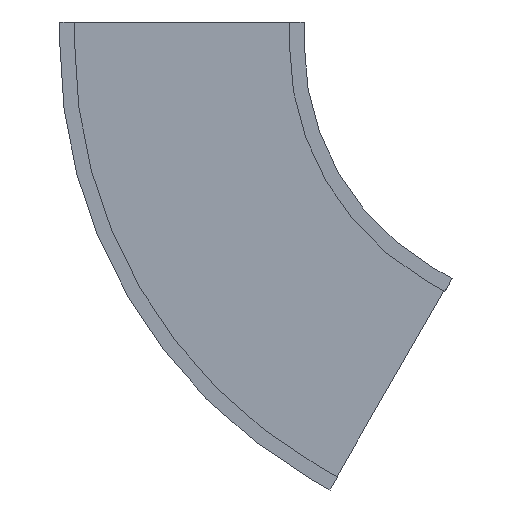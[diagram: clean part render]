
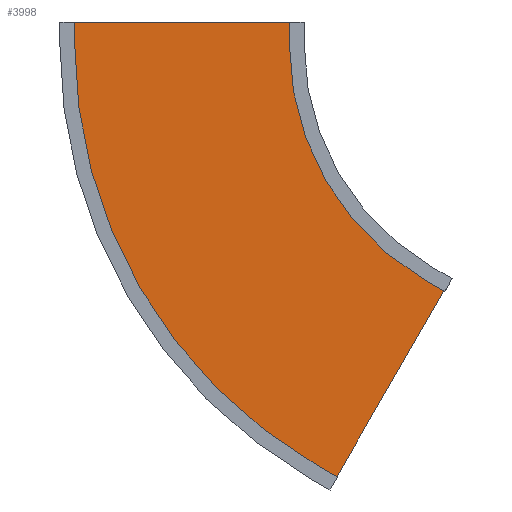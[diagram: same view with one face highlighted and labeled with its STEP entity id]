
A CAD part, front view. The second image highlights one B-rep face of the part: STEP entity #3998.
In plain terms, the highlighted planar face has unit normal (0, -1, 0).
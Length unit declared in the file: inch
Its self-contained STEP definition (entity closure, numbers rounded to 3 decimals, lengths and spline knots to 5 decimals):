
#3843=DIRECTION('',(0.,0.,1.));
#3844=VECTOR('',#3843,29.875);
#3845=CARTESIAN_POINT('',(-2.875,0.,-14.9375));
#3846=LINE('',#3845,#3844);
#3847=DIRECTION('',(1.,0.,0.));
#3848=VECTOR('',#3847,2.875);
#3849=CARTESIAN_POINT('',(-2.875,0.,14.9375));
#3850=LINE('',#3849,#3848);
#3851=CARTESIAN_POINT('',(0.,0.,51.11));
#3852=DIRECTION('',(0.,-1.,0.));
#3853=DIRECTION('',(0.,0.,-1.));
#3854=AXIS2_PLACEMENT_3D('',#3851,#3852,#3853);
#3856=DIRECTION('',(0.5,0.,0.866));
#3857=VECTOR('',#3856,2.875);
#3858=CARTESIAN_POINT('',(31.3263,0.,33.02375));
#3859=LINE('',#3858,#3857);
#3860=DIRECTION('',(0.866,0.,-0.5));
#3861=VECTOR('',#3860,29.875);
#3862=CARTESIAN_POINT('',(32.7638,0.,35.51357));
#3863=LINE('',#3862,#3861);
#3864=DIRECTION('',(-0.5,0.,-0.866));
#3865=VECTOR('',#3864,2.875);
#3866=CARTESIAN_POINT('',(58.63631,0.,20.57607));
#3867=LINE('',#3866,#3865);
#3868=CARTESIAN_POINT('',(0.,0.,51.11));
#3869=DIRECTION('',(0.,1.,0.));
#3870=DIRECTION('',(0.866,0.,-0.5));
#3871=AXIS2_PLACEMENT_3D('',#3868,#3869,#3870);
#3873=DIRECTION('',(-1.,0.,0.));
#3874=VECTOR('',#3873,2.875);
#3875=CARTESIAN_POINT('',(0.,0.,-14.9375));
#3876=LINE('',#3875,#3874);
#3943=CARTESIAN_POINT('',(-2.875,0.,-14.9375));
#3944=CARTESIAN_POINT('',(-2.875,0.,14.9375));
#3945=VERTEX_POINT('',#3943);
#3946=VERTEX_POINT('',#3944);
#3947=CARTESIAN_POINT('',(0.,0.,14.9375));
#3948=VERTEX_POINT('',#3947);
#3949=CARTESIAN_POINT('',(31.3263,0.,33.02375));
#3950=VERTEX_POINT('',#3949);
#3951=CARTESIAN_POINT('',(32.7638,0.,35.51357));
#3952=VERTEX_POINT('',#3951);
#3953=CARTESIAN_POINT('',(58.63631,0.,20.57607));
#3954=VERTEX_POINT('',#3953);
#3955=CARTESIAN_POINT('',(57.19881,0.,18.08625));
#3956=VERTEX_POINT('',#3955);
#3957=CARTESIAN_POINT('',(0.,0.,-14.9375));
#3958=VERTEX_POINT('',#3957);
#3975=CARTESIAN_POINT('',(0.,0.,0.));
#3976=DIRECTION('',(0.,1.,0.));
#3977=DIRECTION('',(1.,0.,0.));
#3978=AXIS2_PLACEMENT_3D('',#3975,#3976,#3977);
#3979=PLANE('',#3978);
#3981=ORIENTED_EDGE('',*,*,#3980,.T.);
#3983=ORIENTED_EDGE('',*,*,#3982,.T.);
#3985=ORIENTED_EDGE('',*,*,#3984,.T.);
#3987=ORIENTED_EDGE('',*,*,#3986,.T.);
#3989=ORIENTED_EDGE('',*,*,#3988,.T.);
#3991=ORIENTED_EDGE('',*,*,#3990,.T.);
#3993=ORIENTED_EDGE('',*,*,#3992,.T.);
#3995=ORIENTED_EDGE('',*,*,#3994,.T.);
#3996=EDGE_LOOP('',(#3981,#3983,#3985,#3987,#3989,#3991,#3993,#3995));
#3997=FACE_OUTER_BOUND('',#3996,.F.);
#3998=ADVANCED_FACE('',(#3997),#3979,.F.);
#3855=CIRCLE('',#3854,36.1725);
#3872=CIRCLE('',#3871,66.0475);
#3980=EDGE_CURVE('',#3945,#3946,#3846,.T.);
#3982=EDGE_CURVE('',#3946,#3948,#3850,.T.);
#3984=EDGE_CURVE('',#3948,#3950,#3855,.T.);
#3986=EDGE_CURVE('',#3950,#3952,#3859,.T.);
#3988=EDGE_CURVE('',#3952,#3954,#3863,.T.);
#3990=EDGE_CURVE('',#3954,#3956,#3867,.T.);
#3992=EDGE_CURVE('',#3956,#3958,#3872,.T.);
#3994=EDGE_CURVE('',#3958,#3945,#3876,.T.);
